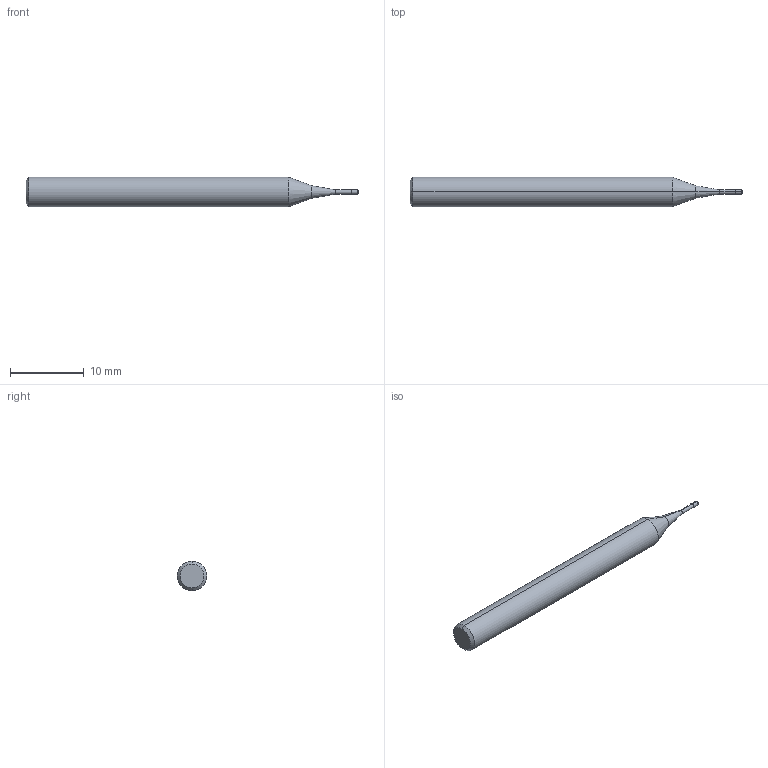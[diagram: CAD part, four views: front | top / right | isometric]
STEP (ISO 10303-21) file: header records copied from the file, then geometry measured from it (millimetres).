
FILE_DESCRIPTION (( 'STEP AP214' ), '1' );
FILE_NAME ('SEME6100600503E.STEP', '2018-04-09T08:44:59', ( '' ), ( '' ), 'SwSTEP 2.0', 'SolidWorks 2014', '' );
FILE_SCHEMA (( 'AUTOMOTIVE_DESIGN' ));
Length unit declared in the file: millimetre
Products named in the file (1): SEME6100600503E
Bounding box: 45 x 4 x 4 mm (x, y, z)
Volume: 471.8 mm3; surface area: 504.5 mm2
Topology: 2 solids, 2 shells, 18 faces, 32 edges, 18 vertices
Faces by surface type: cylinder 6, cone 6, plane 4, torus 2
Entity records: 479 total; most frequent: DIRECTION 90, CARTESIAN_POINT 69, ORIENTED_EDGE 64, AXIS2_PLACEMENT_3D 39, EDGE_CURVE 32, CIRCLE 20, VERTEX_POINT 18, ADVANCED_FACE 18
